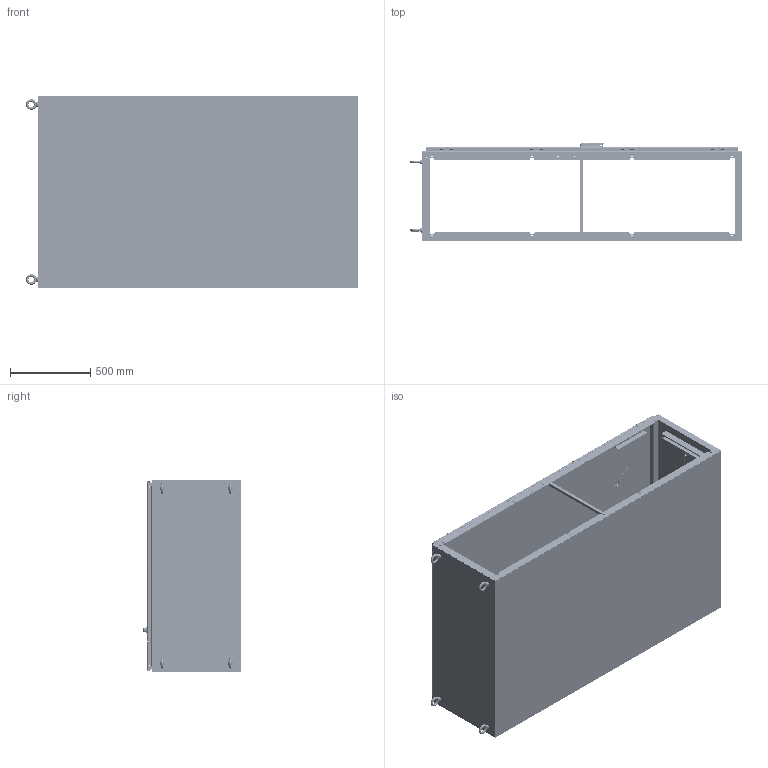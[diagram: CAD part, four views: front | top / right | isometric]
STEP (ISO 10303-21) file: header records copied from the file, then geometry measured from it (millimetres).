
FILE_DESCRIPTION((''),'2;1');
FILE_NAME('MODEL-256_ASM','2021-08-02T15:15:14',('mikek'),('SAGINAW CONTROL & ENGINEERING'),'CREO PARAMETRIC BY PTC INC, 2017260','CREO PARAMETRIC BY PTC INC, 2017260','');
FILE_SCHEMA(('AUTOMOTIVE_DESIGN { 1 0 10303 214 1 1 1 1 }'));
Length unit declared in the file: inch
Products named in the file (75): MODEL-256-R-SD; MODEL-256-BCK; MODEL-256-L-SD; MODEL-256-TP; MODEL-256-BTM; MODEL-256-BB; MODEL-256-MSTR-DR; 100837; 111267; 100882; 129334-HANDLE-STOP; 129334-HANDLE-BASE; 129334-INSERT-SPRING; 129334-HANDLE-PIN; 129334-HANDLE-SHAFT; 129334-HANDLE-LOCK-SCREW; 129334-HANDLE; 129334-COINPROOF-INSERT; 129334-HANDLE-LOCK; 129334-HANDLE-SHAFT-O-RING; 129334-HANDLE_ASM; 129334-LOCK-NUT; 129334-BASE-CAP; 129334-CAM-ADAPTER; 129334-NUT; 129334_ASM; 102237; 100030; 102237_ASM; MODEL-256-ROD-UPR; 128146; 128145; 128144; 102482; MODEL-256-ROD-UPR_ASM; 128143; 112504; MODEL-256-ROD-LWR; MODEL-256-ROD-LWR_ASM; MODEL-256-GSKT-MSTR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
Assembly tree (189 placements, depth 5):
  MODEL-256_ASM
    MODEL-256-R-SD
    MODEL-256-BCK
    MODEL-256-L-SD
    MODEL-256-TP
    MODEL-256-BTM
    MODEL-256-BB
    MODEL-256-MASTER-DR-ASSY_ASM
      MODEL-256-MSTR-DR
      100837  x7
      111267
      100882  x12
      129334_ASM
        129334-HANDLE-STOP
        129334-HANDLE-BASE
        129334-HANDLE_ASM
          129334-INSERT-SPRING
          129334-HANDLE-PIN
          129334-HANDLE-SHAFT
          129334-HANDLE-LOCK-SCREW
          129334-HANDLE
          129334-COINPROOF-INSERT
          129334-HANDLE-LOCK
          129334-HANDLE-SHAFT-O-RING
        129334-LOCK-NUT
        129334-BASE-CAP
        129334-CAM-ADAPTER
        129334-NUT  x2
      102237_ASM
        102237
        100030  x2
      MODEL-256-ROD-UPR_ASM
        MODEL-256-ROD-UPR
        128146
        128145
        128144
        102482  x2
      128143  x2
      112504  x2
      MODEL-256-ROD-LWR_ASM
        MODEL-256-ROD-LWR
        128146
        128145
        128144
        102482  x2
      MODEL-256-GSKT-MSTR
      128257_ASM  x4
        128257
        126397
      126393  x4
      102483  x4
      101369_ASM  x4
        101369
        101369-STUD
      101221  x4
    MODEL-256-SLAVE-DR-ASSY_ASM
      MODEL-256-SLV-DR
      100837  x3
      MODEL-256-GSKT-SLV
      128257_ASM  x4
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Bounding box: 2074.9 x 611.47 x 1204.01 mm (x, y, z)
Volume: 23553223.4 mm3; surface area: 17344991 mm2
Topology: 202 solids, 202 shells, 19011 faces, 50537 edges, 31895 vertices
Faces by surface type: plane 6461, bspline 6060, cylinder 4607, torus 973, cone 620, sphere 287, extrusion 3
Entity records: 310329 total; most frequent: CARTESIAN_POINT 126493, ORIENTED_EDGE 27398, DIRECTION 24823, PRESENTATION_STYLE_ASSIGNMENT 14138, STYLED_ITEM 14138, EDGE_CURVE 13699, CURVE_STYLE 13687, AXIS2_PLACEMENT_3D 9326
